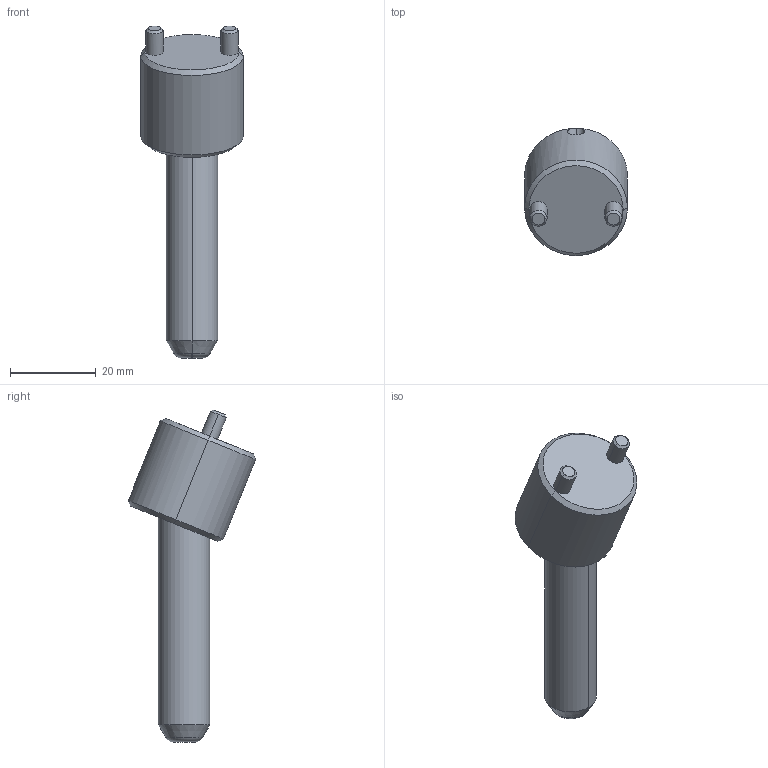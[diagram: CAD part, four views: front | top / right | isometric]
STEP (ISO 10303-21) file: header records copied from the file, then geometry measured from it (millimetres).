
FILE_DESCRIPTION(('CATIA V5 STEP Exchange'),'2;1');
FILE_NAME('C:\Users\Raffaele\Desktop\3D BOLEX\3D FILES CF BOLEX\19-INCLINED ASSEMBLY REF_CI\CI2212050.stp','2019-06-21T10:19:02+00:00',('none'),('none'),'CATIA Version 5 Release 20 GA (IN-10)','CATIA V5 STEP AP203','none');
FILE_SCHEMA(('CONFIG_CONTROL_DESIGN'));
Length unit declared in the file: millimetre
Products named in the file (1): CI2212050
Assembly tree (2 placements, depth 2):
  CI2212050
    #58
    #560
Bounding box: 24 x 29.7 x 77.46 mm (x, y, z)
Volume: 15374.7 mm3; surface area: 6068.1 mm2
Topology: 2 solids, 2 shells, 39 faces, 85 edges, 49 vertices
Faces by surface type: cone 14, cylinder 14, plane 7, torus 4
Entity records: 1479 total; most frequent: CARTESIAN_POINT 608, ORIENTED_EDGE 166, DIRECTION 145, EDGE_CURVE 83, AXIS2_PLACEMENT_3D 72, VERTEX_POINT 49, EDGE_LOOP 42, ADVANCED_FACE 39
